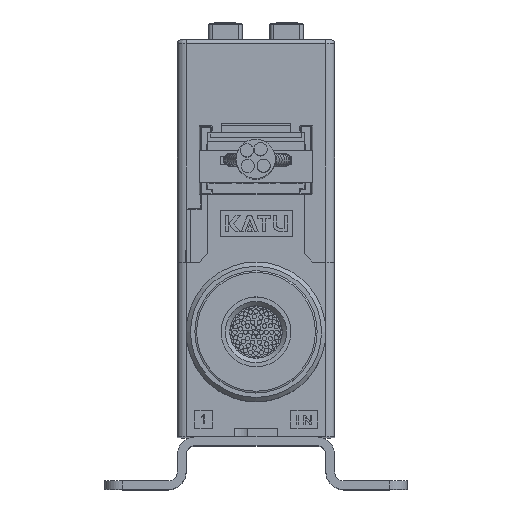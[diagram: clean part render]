
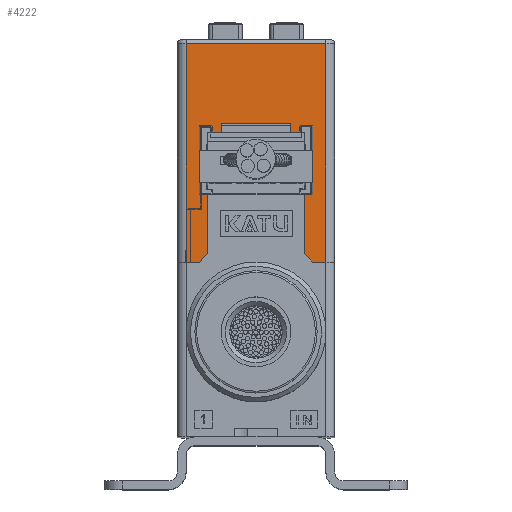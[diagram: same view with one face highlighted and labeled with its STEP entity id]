
A CAD part, top view. The second image highlights one B-rep face of the part: STEP entity #4222.
In plain terms, the highlighted planar face has unit normal (0, 0, 1).
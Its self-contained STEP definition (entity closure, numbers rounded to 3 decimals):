
#51=ELLIPSE('',#37460,0.1,0.1);
#52=ELLIPSE('',#37461,0.1,0.1);
#53=ELLIPSE('',#37462,0.1,0.1);
#54=ELLIPSE('',#37463,0.1,0.1);
#55=ELLIPSE('',#37464,0.1,0.1);
#2503=FACE_OUTER_BOUND('',#10303,.T.);
#4222=ADVANCED_FACE('',(#2503),#5567,.F.);
#5567=PLANE('',#37465);
#10303=EDGE_LOOP('',(#18235,#18236,#18237,#18238,#18239,#18240,#18241,#18242,
#18243,#18244,#18245,#18246,#18247,#18248,#18249,#18250,#18251,#18252,#18253,
#18254,#18255,#18256,#18257));
#18235=ORIENTED_EDGE('',*,*,#28374,.F.);
#18236=ORIENTED_EDGE('',*,*,#28375,.T.);
#18237=ORIENTED_EDGE('',*,*,#28376,.T.);
#18238=ORIENTED_EDGE('',*,*,#28377,.T.);
#18239=ORIENTED_EDGE('',*,*,#28190,.F.);
#18240=ORIENTED_EDGE('',*,*,#28378,.T.);
#18241=ORIENTED_EDGE('',*,*,#28379,.F.);
#18242=ORIENTED_EDGE('',*,*,#28380,.F.);
#18243=ORIENTED_EDGE('',*,*,#28381,.T.);
#18244=ORIENTED_EDGE('',*,*,#28382,.F.);
#18245=ORIENTED_EDGE('',*,*,#28383,.T.);
#18246=ORIENTED_EDGE('',*,*,#28255,.F.);
#18247=ORIENTED_EDGE('',*,*,#28384,.F.);
#18248=ORIENTED_EDGE('',*,*,#28244,.F.);
#18249=ORIENTED_EDGE('',*,*,#28385,.T.);
#18250=ORIENTED_EDGE('',*,*,#28386,.F.);
#18251=ORIENTED_EDGE('',*,*,#28387,.T.);
#18252=ORIENTED_EDGE('',*,*,#28388,.F.);
#18253=ORIENTED_EDGE('',*,*,#28389,.T.);
#18254=ORIENTED_EDGE('',*,*,#28390,.F.);
#18255=ORIENTED_EDGE('',*,*,#28391,.T.);
#18256=ORIENTED_EDGE('',*,*,#28184,.F.);
#18257=ORIENTED_EDGE('',*,*,#28392,.T.);
#24211=VERTEX_POINT('',#55353);
#24227=VERTEX_POINT('',#55386);
#24229=VERTEX_POINT('',#55392);
#24230=VERTEX_POINT('',#55393);
#24235=VERTEX_POINT('',#55404);
#24236=VERTEX_POINT('',#55406);
#24284=VERTEX_POINT('',#55513);
#24285=VERTEX_POINT('',#55515);
#24293=VERTEX_POINT('',#55535);
#24294=VERTEX_POINT('',#55537);
#24384=VERTEX_POINT('',#55779);
#24385=VERTEX_POINT('',#55780);
#24386=VERTEX_POINT('',#55782);
#24387=VERTEX_POINT('',#55784);
#24388=VERTEX_POINT('',#55788);
#24389=VERTEX_POINT('',#55790);
#24390=VERTEX_POINT('',#55792);
#24391=VERTEX_POINT('',#55794);
#24392=VERTEX_POINT('',#55798);
#24393=VERTEX_POINT('',#55800);
#24394=VERTEX_POINT('',#55802);
#24395=VERTEX_POINT('',#55804);
#24396=VERTEX_POINT('',#55806);
#28184=EDGE_CURVE('',#24229,#24230,#31555,.T.);
#28190=EDGE_CURVE('',#24235,#24236,#31561,.T.);
#28244=EDGE_CURVE('',#24284,#24285,#31613,.T.);
#28255=EDGE_CURVE('',#24293,#24294,#31624,.T.);
#28374=EDGE_CURVE('',#24384,#24385,#31719,.T.);
#28375=EDGE_CURVE('',#24384,#24386,#31720,.T.);
#28376=EDGE_CURVE('',#24386,#24387,#31721,.T.);
#28377=EDGE_CURVE('',#24387,#24236,#31722,.T.);
#28378=EDGE_CURVE('',#24235,#24227,#31723,.T.);
#28379=EDGE_CURVE('',#24388,#24227,#31724,.T.);
#28380=EDGE_CURVE('',#24389,#24388,#31725,.T.);
#28381=EDGE_CURVE('',#24389,#24390,#51,.T.);
#28382=EDGE_CURVE('',#24391,#24390,#31726,.T.);
#28383=EDGE_CURVE('',#24391,#24294,#52,.T.);
#28384=EDGE_CURVE('',#24285,#24293,#31727,.T.);
#28385=EDGE_CURVE('',#24284,#24392,#53,.T.);
#28386=EDGE_CURVE('',#24393,#24392,#31728,.T.);
#28387=EDGE_CURVE('',#24393,#24394,#54,.T.);
#28388=EDGE_CURVE('',#24395,#24394,#31729,.T.);
#28389=EDGE_CURVE('',#24395,#24396,#55,.T.);
#28390=EDGE_CURVE('',#24211,#24396,#31730,.T.);
#28391=EDGE_CURVE('',#24211,#24230,#31731,.T.);
#28392=EDGE_CURVE('',#24229,#24385,#31732,.T.);
#31555=LINE('',#55391,#34032);
#31561=LINE('',#55405,#34038);
#31613=LINE('',#55514,#34090);
#31624=LINE('',#55536,#34101);
#31719=LINE('',#55778,#34196);
#31720=LINE('',#55781,#34197);
#31721=LINE('',#55783,#34198);
#31722=LINE('',#55785,#34199);
#31723=LINE('',#55786,#34200);
#31724=LINE('',#55787,#34201);
#31725=LINE('',#55789,#34202);
#31726=LINE('',#55793,#34203);
#31727=LINE('',#55796,#34204);
#31728=LINE('',#55799,#34205);
#31729=LINE('',#55803,#34206);
#31730=LINE('',#55807,#34207);
#31731=LINE('',#55808,#34208);
#31732=LINE('',#55809,#34209);
#34032=VECTOR('',#44276,1.);
#34038=VECTOR('',#44284,1.);
#34090=VECTOR('',#44352,1.);
#34101=VECTOR('',#44367,1.);
#34196=VECTOR('',#44576,1.);
#34197=VECTOR('',#44577,1.);
#34198=VECTOR('',#44578,1.);
#34199=VECTOR('',#44579,1.);
#34200=VECTOR('',#44580,1.);
#34201=VECTOR('',#44581,1.);
#34202=VECTOR('',#44582,1.);
#34203=VECTOR('',#44585,1.);
#34204=VECTOR('',#44588,1.);
#34205=VECTOR('',#44591,1.);
#34206=VECTOR('',#44594,1.);
#34207=VECTOR('',#44597,1.);
#34208=VECTOR('',#44598,1.);
#34209=VECTOR('',#44599,1.);
#37460=AXIS2_PLACEMENT_3D('',#55791,#44583,#44584);
#37461=AXIS2_PLACEMENT_3D('',#55795,#44586,#44587);
#37462=AXIS2_PLACEMENT_3D('',#55797,#44589,#44590);
#37463=AXIS2_PLACEMENT_3D('',#55801,#44592,#44593);
#37464=AXIS2_PLACEMENT_3D('',#55805,#44595,#44596);
#37465=AXIS2_PLACEMENT_3D('',#55810,#44600,#44601);
#44276=DIRECTION('',(-0.707,0.707,0.));
#44284=DIRECTION('',(-0.707,-0.707,0.));
#44352=DIRECTION('',(0.,-1.,0.));
#44367=DIRECTION('',(0.,1.,0.));
#44576=DIRECTION('',(0.,-1.,0.));
#44577=DIRECTION('',(-1.,0.,0.));
#44578=DIRECTION('',(0.,-1.,0.));
#44579=DIRECTION('',(1.,0.,0.));
#44580=DIRECTION('',(0.,1.,0.));
#44581=DIRECTION('',(1.,0.,0.));
#44582=DIRECTION('',(0.,-1.,0.));
#44583=DIRECTION('',(0.,0.,-1.));
#44584=DIRECTION('',(-0.707,0.707,0.));
#44585=DIRECTION('',(-1.,0.,0.));
#44586=DIRECTION('',(0.,0.,-1.));
#44587=DIRECTION('',(0.707,0.707,0.));
#44588=DIRECTION('',(-1.,0.,0.));
#44589=DIRECTION('',(0.,0.,-1.));
#44590=DIRECTION('',(-0.707,0.707,0.));
#44591=DIRECTION('',(-1.,0.,0.));
#44592=DIRECTION('',(0.,0.,-1.));
#44593=DIRECTION('',(0.707,0.707,0.));
#44594=DIRECTION('',(0.,1.,0.));
#44595=DIRECTION('',(0.,0.,-1.));
#44596=DIRECTION('',(-1.,0.,0.));
#44597=DIRECTION('',(1.,0.,0.));
#44598=DIRECTION('',(0.,-1.,0.));
#44599=DIRECTION('',(1.,0.,0.));
#44600=DIRECTION('',(0.,0.,-1.));
#44601=DIRECTION('',(-1.,0.,0.));
#55353=CARTESIAN_POINT('',(32.,16.8,-13.5));
#55386=CARTESIAN_POINT('',(21.,16.8,-13.5));
#55391=CARTESIAN_POINT('',(32.,10.,-13.5));
#55392=CARTESIAN_POINT('',(33.,9.,-13.5));
#55393=CARTESIAN_POINT('',(32.,10.,-13.5));
#55404=CARTESIAN_POINT('',(21.,10.,-13.5));
#55405=CARTESIAN_POINT('',(20.,9.,-13.5));
#55406=CARTESIAN_POINT('',(20.,9.,-13.5));
#55513=CARTESIAN_POINT('',(31.5,24.5,-13.5));
#55514=CARTESIAN_POINT('',(31.5,36.9,-13.5));
#55515=CARTESIAN_POINT('',(31.5,23.3,-13.5));
#55535=CARTESIAN_POINT('',(21.5,23.3,-13.5));
#55536=CARTESIAN_POINT('',(21.5,36.9,-13.5));
#55537=CARTESIAN_POINT('',(21.5,24.5,-13.5));
#55778=CARTESIAN_POINT('',(34.5,36.6,-13.5));
#55779=CARTESIAN_POINT('',(34.5,34.,-13.5));
#55780=CARTESIAN_POINT('',(34.5,9.,-13.5));
#55781=CARTESIAN_POINT('',(18.5,34.,-13.5));
#55782=CARTESIAN_POINT('',(18.5,34.,-13.5));
#55783=CARTESIAN_POINT('',(18.5,36.6,-13.5));
#55784=CARTESIAN_POINT('',(18.5,9.,-13.5));
#55785=CARTESIAN_POINT('',(33.,9.,-13.5));
#55786=CARTESIAN_POINT('',(21.,21.25,-13.5));
#55787=CARTESIAN_POINT('',(21.,16.8,-13.5));
#55788=CARTESIAN_POINT('',(20.,16.8,-13.5));
#55789=CARTESIAN_POINT('',(20.,36.6,-13.5));
#55790=CARTESIAN_POINT('',(20.,24.5,-13.5));
#55791=CARTESIAN_POINT('',(20.1,24.5,-13.5));
#55792=CARTESIAN_POINT('',(20.1,24.6,-13.5));
#55793=CARTESIAN_POINT('',(33.,24.6,-13.5));
#55794=CARTESIAN_POINT('',(21.4,24.6,-13.5));
#55795=CARTESIAN_POINT('',(21.4,24.5,-13.5));
#55796=CARTESIAN_POINT('',(33.,23.3,-13.5));
#55797=CARTESIAN_POINT('',(31.6,24.5,-13.5));
#55798=CARTESIAN_POINT('',(31.6,24.6,-13.5));
#55799=CARTESIAN_POINT('',(33.,24.6,-13.5));
#55800=CARTESIAN_POINT('',(32.9,24.6,-13.5));
#55801=CARTESIAN_POINT('',(32.9,24.5,-13.5));
#55802=CARTESIAN_POINT('',(33.,24.5,-13.5));
#55803=CARTESIAN_POINT('',(33.,36.6,-13.5));
#55804=CARTESIAN_POINT('',(33.,16.9,-13.5));
#55805=CARTESIAN_POINT('',(32.9,16.9,-13.5));
#55806=CARTESIAN_POINT('',(32.9,16.8,-13.5));
#55807=CARTESIAN_POINT('',(32.,16.8,-13.5));
#55808=CARTESIAN_POINT('',(32.,36.6,-13.5));
#55809=CARTESIAN_POINT('',(33.,9.,-13.5));
#55810=CARTESIAN_POINT('',(33.,36.6,-13.5));
